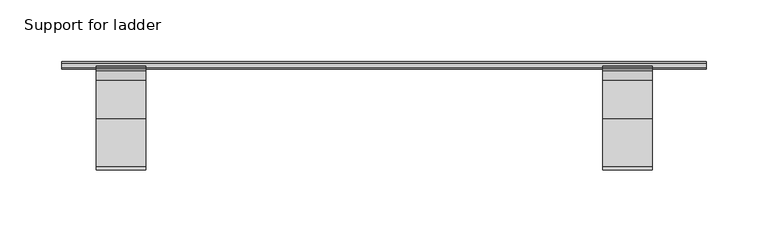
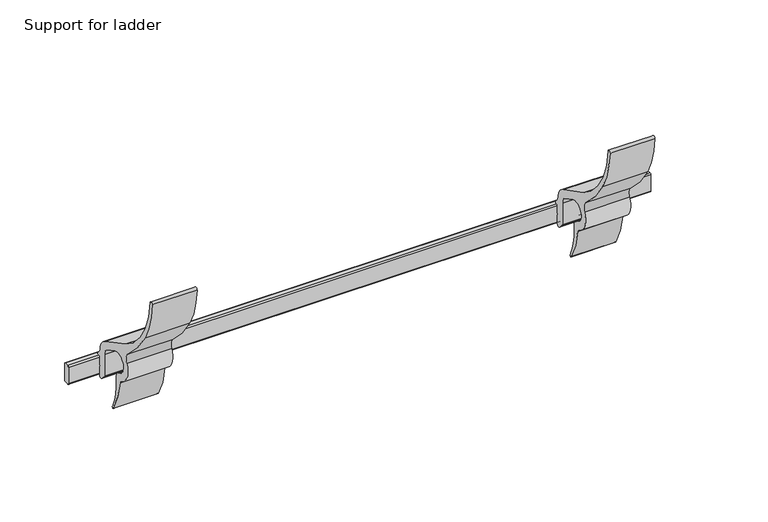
"""IFC4 building model written with IfcOpenShell, lengths in millimetres: proxy geometry, GROVIK_Special_Ladder Support : Support for ladder."""

from ifc_helpers import new_model, si_unit, point, frame, frame_2d, origin, place, context, project, spatial, polyline, circle_curve, trimmed, segment, composite_curve, outline, extrude, source, transform, mapped, element, save


def support_for_ladder_3a7e4ef8(model_context):
    return source(origin(), model_context, "Body", "SweptSolid", [
        extrude(outline(composite_curve([segment(polyline([(-107.3471133, -42.4400648), (-111.3471133, -38.7949601)]), True, "CONTINUOUS"), segment(trimmed(circle_curve(frame_2d((-110.0, -37.3166889)), 2.0), [point((-111.3471133, -38.7949601))], [point((-112.0, -37.3166889))], False, "CARTESIAN"), True, "CONTINUOUS"), segment(polyline([(-112.0, -37.3166889), (-112.0, -16.8356846)]), True, "CONTINUOUS"), segment(trimmed(circle_curve(frame_2d((-119.5037926, -16.8356846)), 7.5037926), [point((-112.0, -16.8356846))], [point((-116.0572751, -10.1702198))], True, "CARTESIAN"), True, "CONTINUOUS"), segment(polyline([(-116.0572751, -10.1702198), (-128.2875493, -3.8463016)]), True, "CONTINUOUS"), segment(trimmed(circle_curve(frame_2d((-132.4171148, -11.8327613)), 8.9909315), [point((-128.2875493, -3.8463016))], [point((-136.5466803, -19.8192211))], True, "CARTESIAN"), True, "CONTINUOUS"), segment(polyline([(-136.5466803, -19.8192211), (-132.7022475, -21.8070652)]), True, "CONTINUOUS"), segment(trimmed(circle_curve(frame_2d((-134.9943388, -26.2399034)), 4.9903644), [point((-132.7022475, -21.8070652))], [point((-130.0376282, -26.8184852))], False, "CARTESIAN"), True, "CONTINUOUS"), segment(trimmed(circle_curve(frame_2d((-68.4949065, -31.851373)), 61.7481705), [point((-130.0376282, -26.8184852))], [point((-124.0379542, -58.8292604))], True, "CARTESIAN"), True, "CONTINUOUS"), segment(trimmed(circle_curve(frame_2d((-124.7006523, -59.2248433)), 0.7717867), [point((-124.0379542, -58.8292604))], [point((-125.3633504, -59.6204262))], False, "CARTESIAN"), True, "CONTINUOUS"), segment(trimmed(circle_curve(frame_2d((-58.0899225, -19.4630493)), 78.3474889), [point((-125.3633504, -59.6204262))], [point((-135.8173707, -29.3003669))], False, "CARTESIAN"), True, "CONTINUOUS"), segment(trimmed(circle_curve(frame_2d((-139.1430681, -29.7212728)), 3.3522268), [point((-135.8173707, -29.3003669))], [point((-137.9203712, -26.599985))], True, "CARTESIAN"), True, "CONTINUOUS"), segment(trimmed(circle_curve(frame_2d((-132.1599333, -11.8947999)), 15.7931983), [point((-137.9203712, -26.599985))], [point((-146.1668738, -4.5988605))], False, "CARTESIAN"), True, "CONTINUOUS"), segment(trimmed(circle_curve(frame_2d((-153.2881022, -0.8895528)), 8.0293747), [point((-146.1668738, -4.5988605))], [point((-148.0776299, 5.2196072))], True, "CARTESIAN"), True, "CONTINUOUS"), segment(trimmed(circle_curve(frame_2d((-66.579421, 100.7743997)), 125.5893165), [point((-148.0776299, 5.2196072))], [point((-174.477544, 36.5040995))], False, "CARTESIAN"), True, "CONTINUOUS"), segment(trimmed(circle_curve(frame_2d((-97.8112333, 79.1675806)), 87.7376533), [point((-174.477544, 36.5040995))], [point((-185.428938, 74.5813361))], False, "CARTESIAN"), True, "CONTINUOUS"), segment(trimmed(circle_curve(frame_2d((-183.9250855, 74.6600534)), 1.5059113), [point((-185.428938, 74.5813361))], [point((-182.4212329, 74.7387708))], False, "CARTESIAN"), True, "CONTINUOUS"), segment(trimmed(circle_curve(frame_2d((-105.7314624, 78.7530056)), 76.7947589), [point((-182.4212329, 74.7387708))], [point((-143.7458357, 12.0271305))], True, "CARTESIAN"), True, "CONTINUOUS"), segment(polyline([(-143.7458357, 12.0271305), (-112.8246835, -3.9612957)]), True, "CONTINUOUS"), segment(trimmed(circle_curve(frame_2d((-118.8951082, -16.4639535)), 13.8984355), [point((-112.8246835, -3.9612957))], [point((-105.0088177, -15.883055))], False, "CARTESIAN"), True, "CONTINUOUS"), segment(trimmed(circle_curve(frame_2d((-100.0376396, -15.6750981)), 4.9755259), [point((-105.0088177, -15.883055))], [point((-103.5125484, -19.2361185))], True, "CARTESIAN"), True, "CONTINUOUS"), segment(polyline([(-103.5125484, -19.2361185), (-102.0968592, -20.6175739)]), True, "CONTINUOUS"), segment(trimmed(circle_curve(frame_2d((-103.4789782, -22.0339431)), 1.9789782), [point((-102.0968592, -20.6175739))], [point((-101.5, -22.0339431))], False, "CARTESIAN"), True, "CONTINUOUS"), segment(polyline([(-101.5, -22.0339431), (-101.5, -23.2), (-104.0, -23.2), (-104.0, -31.0350044), (-104.7, -32.2), (-104.0, -33.3649956), (-104.0, -40.9617936)]), True, "CONTINUOUS"), segment(trimmed(circle_curve(frame_2d((-106.0, -40.9617936)), 2.0), [point((-104.0, -40.9617936))], [point((-107.3471133, -42.4400648))], False, "CARTESIAN"), True, "CONTINUOUS")], self_intersect=False)), frame((176.6319399, 0.0, 0.0), z_axis=(1.0, 0.0, 0.0), x_axis=(0.0, 1.0, 0.0)), (0.0, 0.0, 1.0), 40.0),
        extrude(outline(composite_curve([segment(polyline([(-107.3471133, -42.4400648), (-111.3471133, -38.7949601)]), True, "CONTINUOUS"), segment(trimmed(circle_curve(frame_2d((-110.0, -37.3166889)), 2.0), [point((-111.3471133, -38.7949601))], [point((-112.0, -37.3166889))], False, "CARTESIAN"), True, "CONTINUOUS"), segment(polyline([(-112.0, -37.3166889), (-112.0, -16.8356846)]), True, "CONTINUOUS"), segment(trimmed(circle_curve(frame_2d((-119.5037926, -16.8356846)), 7.5037926), [point((-112.0, -16.8356846))], [point((-116.0572751, -10.1702198))], True, "CARTESIAN"), True, "CONTINUOUS"), segment(polyline([(-116.0572751, -10.1702198), (-128.2875493, -3.8463016)]), True, "CONTINUOUS"), segment(trimmed(circle_curve(frame_2d((-132.4171148, -11.8327613)), 8.9909315), [point((-128.2875493, -3.8463016))], [point((-136.5466803, -19.8192211))], True, "CARTESIAN"), True, "CONTINUOUS"), segment(polyline([(-136.5466803, -19.8192211), (-132.7022475, -21.8070652)]), True, "CONTINUOUS"), segment(trimmed(circle_curve(frame_2d((-134.9943388, -26.2399034)), 4.9903644), [point((-132.7022475, -21.8070652))], [point((-130.0376282, -26.8184852))], False, "CARTESIAN"), True, "CONTINUOUS"), segment(trimmed(circle_curve(frame_2d((-68.4949065, -31.851373)), 61.7481705), [point((-130.0376282, -26.8184852))], [point((-124.0379542, -58.8292604))], True, "CARTESIAN"), True, "CONTINUOUS"), segment(trimmed(circle_curve(frame_2d((-124.7006523, -59.2248433)), 0.7717867), [point((-124.0379542, -58.8292604))], [point((-125.3633504, -59.6204262))], False, "CARTESIAN"), True, "CONTINUOUS"), segment(trimmed(circle_curve(frame_2d((-58.0899225, -19.4630493)), 78.3474889), [point((-125.3633504, -59.6204262))], [point((-135.8173707, -29.3003669))], False, "CARTESIAN"), True, "CONTINUOUS"), segment(trimmed(circle_curve(frame_2d((-139.1430681, -29.7212728)), 3.3522268), [point((-135.8173707, -29.3003669))], [point((-137.9203712, -26.599985))], True, "CARTESIAN"), True, "CONTINUOUS"), segment(trimmed(circle_curve(frame_2d((-132.1599333, -11.8947999)), 15.7931983), [point((-137.9203712, -26.599985))], [point((-146.1668738, -4.5988605))], False, "CARTESIAN"), True, "CONTINUOUS"), segment(trimmed(circle_curve(frame_2d((-153.2881022, -0.8895528)), 8.0293747), [point((-146.1668738, -4.5988605))], [point((-148.0776299, 5.2196072))], True, "CARTESIAN"), True, "CONTINUOUS"), segment(trimmed(circle_curve(frame_2d((-66.579421, 100.7743997)), 125.5893165), [point((-148.0776299, 5.2196072))], [point((-174.477544, 36.5040995))], False, "CARTESIAN"), True, "CONTINUOUS"), segment(trimmed(circle_curve(frame_2d((-97.8112333, 79.1675806)), 87.7376533), [point((-174.477544, 36.5040995))], [point((-185.428938, 74.5813361))], False, "CARTESIAN"), True, "CONTINUOUS"), segment(trimmed(circle_curve(frame_2d((-183.9250855, 74.6600534)), 1.5059113), [point((-185.428938, 74.5813361))], [point((-182.4212329, 74.7387708))], False, "CARTESIAN"), True, "CONTINUOUS"), segment(trimmed(circle_curve(frame_2d((-105.7314624, 78.7530056)), 76.7947589), [point((-182.4212329, 74.7387708))], [point((-143.7458357, 12.0271305))], True, "CARTESIAN"), True, "CONTINUOUS"), segment(polyline([(-143.7458357, 12.0271305), (-112.8246835, -3.9612957)]), True, "CONTINUOUS"), segment(trimmed(circle_curve(frame_2d((-118.8951082, -16.4639535)), 13.8984355), [point((-112.8246835, -3.9612957))], [point((-105.0088177, -15.883055))], False, "CARTESIAN"), True, "CONTINUOUS"), segment(trimmed(circle_curve(frame_2d((-100.0376396, -15.6750981)), 4.9755259), [point((-105.0088177, -15.883055))], [point((-103.5125484, -19.2361185))], True, "CARTESIAN"), True, "CONTINUOUS"), segment(polyline([(-103.5125484, -19.2361185), (-102.0968592, -20.6175739)]), True, "CONTINUOUS"), segment(trimmed(circle_curve(frame_2d((-103.4789782, -22.0339431)), 1.9789782), [point((-102.0968592, -20.6175739))], [point((-101.5, -22.0339431))], False, "CARTESIAN"), True, "CONTINUOUS"), segment(polyline([(-101.5, -22.0339431), (-101.5, -23.2), (-104.0, -23.2), (-104.0, -31.0350044), (-104.7, -32.2), (-104.0, -33.3649956), (-104.0, -40.9617936)]), True, "CONTINUOUS"), segment(trimmed(circle_curve(frame_2d((-106.0, -40.9617936)), 2.0), [point((-104.0, -40.9617936))], [point((-107.3471133, -42.4400648))], False, "CARTESIAN"), True, "CONTINUOUS")], self_intersect=False)), frame((-232.2531179, 0.0, 0.0), z_axis=(1.0, 0.0, 0.0), x_axis=(0.0, 1.0, 0.0)), (0.0, 0.0, 1.0), 40.0),
        extrude(outline(composite_curve([segment(polyline([(-103.0, -23.2), (-99.0, -23.2)]), True, "CONTINUOUS"), segment(trimmed(circle_curve(frame_2d((-99.0, -24.2)), 1.0), [point((-99.0, -23.2))], [point((-98.0, -24.2))], False, "CARTESIAN"), True, "CONTINUOUS"), segment(polyline([(-98.0, -24.2), (-98.0, -39.7)]), True, "CONTINUOUS"), segment(trimmed(circle_curve(frame_2d((-99.0, -39.7)), 1.0), [point((-98.0, -39.7))], [point((-99.0, -40.7))], False, "CARTESIAN"), True, "CONTINUOUS"), segment(polyline([(-99.0, -40.7), (-103.0, -40.7)]), True, "CONTINUOUS"), segment(trimmed(circle_curve(frame_2d((-103.0, -39.7)), 1.0), [point((-103.0, -40.7))], [point((-104.0, -39.7))], False, "CARTESIAN"), True, "CONTINUOUS"), segment(polyline([(-104.0, -39.7), (-104.0, -24.2)]), True, "CONTINUOUS"), segment(trimmed(circle_curve(frame_2d((-103.0, -24.2)), 1.0), [point((-104.0, -24.2))], [point((-103.0, -23.2))], False, "CARTESIAN"), True, "CONTINUOUS")], self_intersect=False)), frame((-260.0, 0.0, 0.0), z_axis=(1.0, 0.0, 0.0), x_axis=(0.0, 1.0, 0.0)), (0.0, 0.0, 1.0), 520.0),
    ])


if __name__ == "__main__":
    model = new_model("IFC4")
    model_context = context("Model", 3, world=origin())
    ifc_project = project(units=[si_unit("LENGTHUNIT", "METRE", prefix="MILLI")], contexts=[model_context])
    site = spatial("IfcSite", under=ifc_project)
    building = spatial("IfcBuilding", under=site)
    placement = place(None, origin())
    support_for_ladder_shape = support_for_ladder_3a7e4ef8(model_context)
    element("IfcBuildingElementProxy", 1, Name="GROVIK_Special_Ladder Support : Support for ladder", ObjectType="GROVIK_Special_Ladder Support : Support for ladder", at=placement, inside=building, context=model_context, shape_type="MappedRepresentation", body=[
        mapped(support_for_ladder_shape, transform((0.0, 0.0, 0.0), x_axis=(1.0, 0.0, 0.0), y_axis=(0.0, 1.0, 0.0), z_axis=(0.0, 0.0, 1.0))),
    ])
    save(model, "model.ifc")
